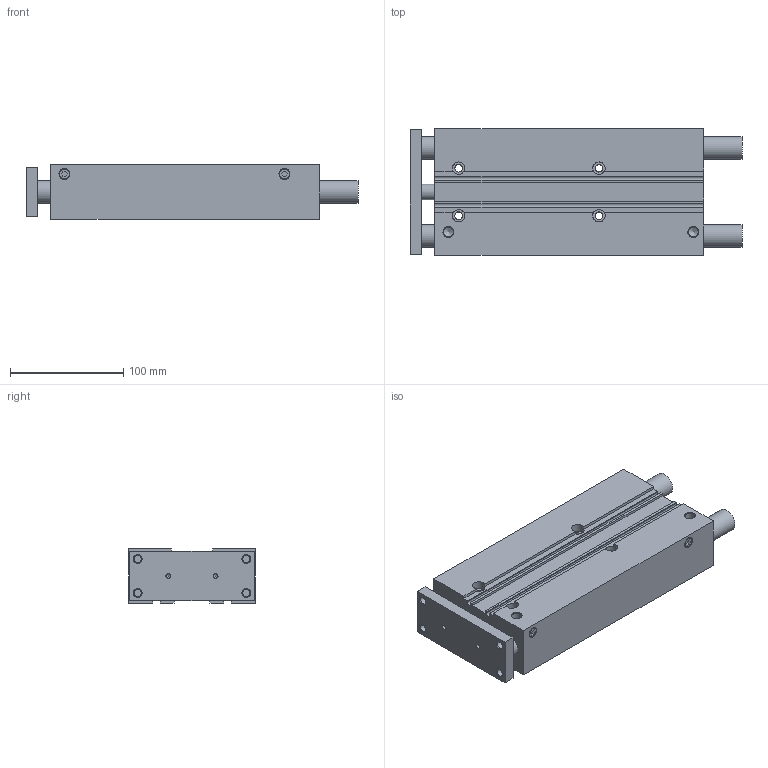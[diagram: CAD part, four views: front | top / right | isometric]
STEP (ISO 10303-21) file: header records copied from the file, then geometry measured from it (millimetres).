
FILE_DESCRIPTION(/* description */ ('STEP AP214'),/* implementation_level */ '2;1');
FILE_NAME(/* name */ 'MGPM32TF-200Z(0_0)',/* time_stamp */ '2025-08-27T08:12:42+02:00',/* author */ ('License CC BY-ND 4.0'),/* organization */ ('CADENAS'),/* preprocessor_version */ 'ST-DEVELOPER v19.3',/* originating_system */ 'PARTsolutions',/* authorisation */ ' ');
FILE_SCHEMA (('AUTOMOTIVE_DESIGN {1 0 10303 214 3 1 1}'));
Length unit declared in the file: millimetre
Products named in the file (4): MGPM32TF-200Z(0_0); MGPM32-200Z(0)_BODY; MGPM32-200Z(0)_ROD; MGP-Z_PLUG_32
Assembly tree (4 placements, depth 2):
  MGPM32TF-200Z(0_0)
    MGPM32-200Z(0)_BODY
    MGPM32-200Z(0)_ROD
    MGP-Z_PLUG_32  x2
Bounding box: 293.5 x 112 x 48 mm (x, y, z)
Volume: 1101402.1 mm3; surface area: 229261.9 mm2
Topology: 4 solids, 4 shells, 200 faces, 484 edges, 308 vertices
Faces by surface type: plane 108, cylinder 54, cone 38
Full cylindrical faces by diameter (mm): 4 x6, 6.647 x12, 6.7 x4, 8 x4, 8.566 x4, 9.728 x2, 11 x4, 14 x2, 20 x4, 32 x2
Entity records: 5105 total; most frequent: DIRECTION 880, CARTESIAN_POINT 837, ORIENTED_EDGE 718, EDGE_CURVE 359, AXIS2_PLACEMENT_3D 328, FACE_BOUND 316, EDGE_LOOP 302, VERTEX_POINT 285
